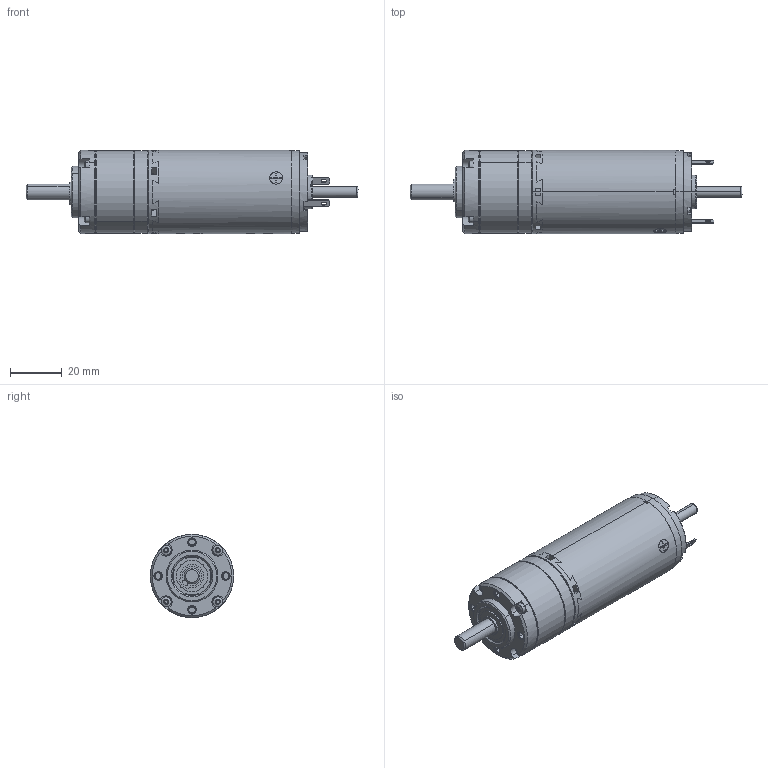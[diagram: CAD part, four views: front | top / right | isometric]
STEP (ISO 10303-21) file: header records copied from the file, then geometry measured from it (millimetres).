
FILE_DESCRIPTION (( 'STEP AP214' ), '1' );
FILE_NAME ('AMAX32GHP+PM32-1etage_2016.STEP', '2016-12-19T15:32:35', ( 'maxon motor' ), ( 'maxon motor' ), 'SwSTEP 2.0', 'SolidWorks 2015', '' );
FILE_SCHEMA (( 'AUTOMOTIVE_DESIGN' ));
Length unit declared in the file: millimetre
Products named in the file (20): FLACHKOPFSCHRAUBE_M2X21_PRECOTE_2; 8101913_LAGERFLANSCH_2; D625-619_6-2Z_2; GK545_POS23_4_ABTRIEB_LK4_KPL_2; GK235_POS13_LAGERBOLZEN_2; GK545_POS22_ABTRIEB_ROHTEIL_AF0_2; DIN998_PS_6X12X0_5_2; D472_15X1_2; Cotﾚ moteur^PM32 pour Amax32; 8002481_MOTORRITZEL_Z17; 8011610_ANLAUFSCHEIBE_G_1ST_2; GK235_POS42_DICHTRING_2; A-max32-236651; AMAX32GHP+PM32-1etage_2016; PM32 pour Amax32_1 etage; 8015677_MOTORFLANSCH; SCHRAUBEN_1232149; P8209_8100249_ZAHNKRANZ_1ST_2; Cotﾚ sortie^PM32 pour Amax32; DIN471_SR_06X00_7_2
Assembly tree (29 placements, depth 5):
  AMAX32GHP+PM32-1etage_2016
    PM32 pour Amax32_1 etage
      Cotﾚ moteur^PM32 pour Amax32
        GK235_POS42_DICHTRING_2
        8011610_ANLAUFSCHEIBE_G_1ST_2
        8002481_MOTORRITZEL_Z17
      Cotﾚ sortie^PM32 pour Amax32
        D472_15X1_2
        DIN998_PS_6X12X0_5_2  x2
        GK545_POS23_4_ABTRIEB_LK4_KPL_2
          GK545_POS22_ABTRIEB_ROHTEIL_AF0_2
          GK235_POS13_LAGERBOLZEN_2  x3
        D625-619_6-2Z_2  x2
        8101913_LAGERFLANSCH_2
        FLACHKOPFSCHRAUBE_M2X21_PRECOTE_2  x4
        DIN471_SR_06X00_7_2
        GK235_POS42_DICHTRING_2
      P8209_8100249_ZAHNKRANZ_1ST_2
      SCHRAUBEN_1232149  x3
      8015677_MOTORFLANSCH
    A-max32-236651
Bounding box: 127.75 x 32 x 32 mm (x, y, z)
Volume: 8671.3 mm3; surface area: 30398.1 mm2
Topology: 19 solids, 51 shells, 1743 faces, 4636 edges, 3019 vertices
Faces by surface type: cylinder 794, plane 600, cone 180, torus 111, bspline 50, sphere 8
Entity records: 67681 total; most frequent: CARTESIAN_POINT 18520, ORIENTED_EDGE 8073, DIRECTION 8054, EDGE_CURVE 4058, AXIS2_PLACEMENT_3D 3074, VERTEX_POINT 2656, LINE 1906, VECTOR 1906
